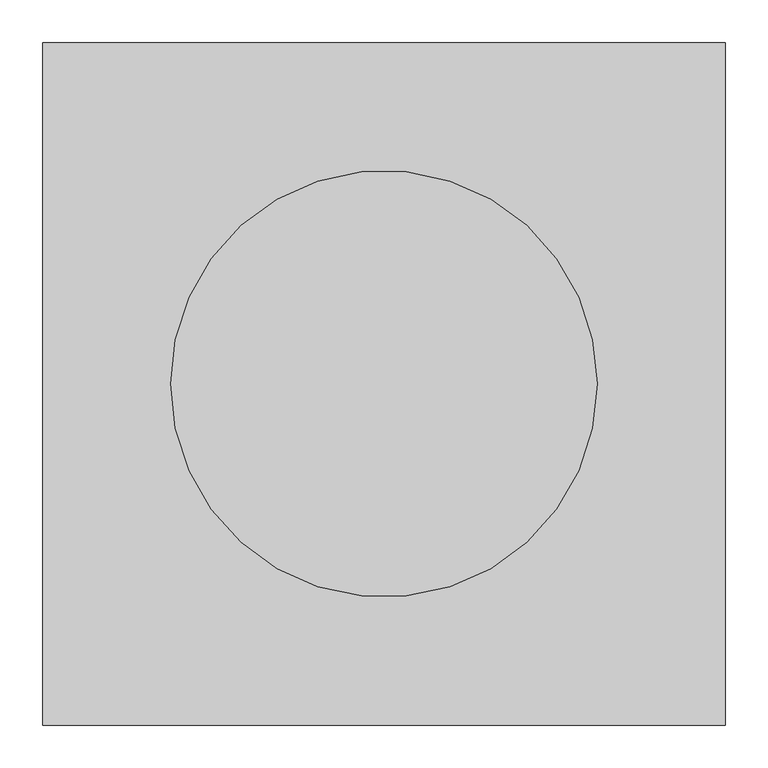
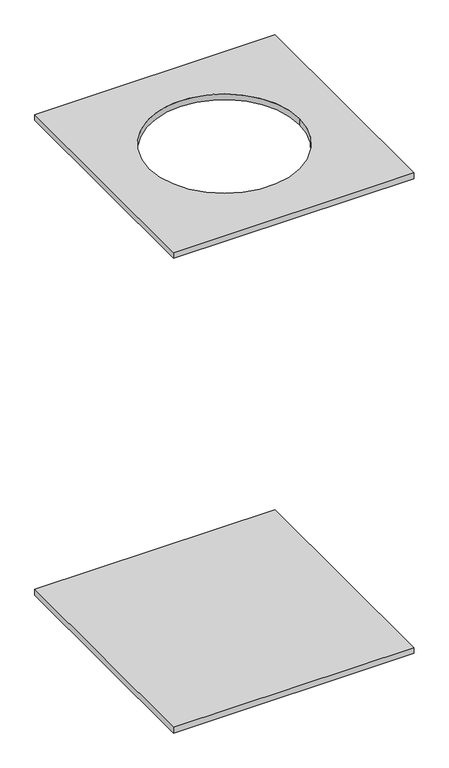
"""IFC4 building model written with IfcOpenShell, lengths in millimetres: proxy geometry, RAUSIKKO C3 Chamber : RSK C3 Chamber."""

from ifc_helpers import new_model, si_unit, point, frame, frame_2d, origin, place, context, project, spatial, polyline, circle_curve, trimmed, segment, composite_curve, outline, extrude, source, transform, mapped, element, save


def generic_models_5ebb2b20(model_context):
    return source(origin(), model_context, "Body", "SweptSolid", [
        extrude(outline(polyline([(800.0, 0.0), (0.0, 0.0), (0.0, 800.0), (800.0, 800.0), (800.0, 0.0)])), frame((0.0, 0.0, -20.0), z_axis=(0.0, 0.0, 1.0), x_axis=(1.0, 0.0, 0.0)), (0.0, 0.0, 1.0), 20.0),
        extrude(outline(polyline([(800.0, 0.0), (0.0, 0.0), (0.0, 800.0), (800.0, 800.0), (800.0, 0.0)]), holes=[composite_curve([segment(trimmed(circle_curve(frame_2d((400.0, 400.0)), 250.0), [point((650.0, 400.0))], [point((150.0, 400.0))], True, "CARTESIAN"), True, "CONTINUOUS"), segment(trimmed(circle_curve(frame_2d((400.0, 400.0)), 250.0), [point((150.0, 400.0))], [point((650.0, 400.0))], True, "CARTESIAN"), True, "CONTINUOUS")], self_intersect=False)]), frame((0.0, 0.0, 1650.0), z_axis=(0.0, 0.0, 1.0), x_axis=(1.0, 0.0, 0.0)), (0.0, 0.0, 1.0), 20.0),
    ])


if __name__ == "__main__":
    model = new_model("IFC4")
    model_context = context("Model", 3, world=origin())
    ifc_project = project(units=[si_unit("LENGTHUNIT", "METRE", prefix="MILLI")], contexts=[model_context])
    site = spatial("IfcSite", under=ifc_project)
    building = spatial("IfcBuilding", under=site)
    placement = place(None, origin())
    generic_models_shape = generic_models_5ebb2b20(model_context)
    element("IfcBuildingElementProxy", 1, Name="RAUSIKKO C3 Chamber : RSK C3 Chamber", ObjectType="RAUSIKKO C3 Chamber : RSK C3 Chamber", at=placement, inside=building, context=model_context, shape_type="MappedRepresentation", body=[
        mapped(generic_models_shape, transform((0.0, 0.0, 0.0), x_axis=(1.0, 0.0, 0.0), y_axis=(0.0, 1.0, 0.0), z_axis=(0.0, 0.0, 1.0))),
    ])
    save(model, "model.ifc")
